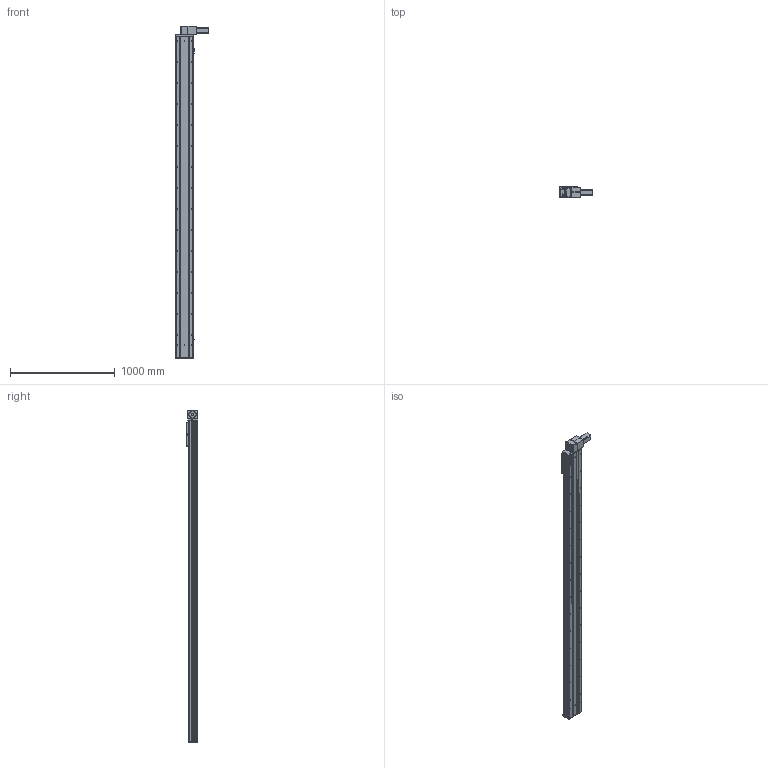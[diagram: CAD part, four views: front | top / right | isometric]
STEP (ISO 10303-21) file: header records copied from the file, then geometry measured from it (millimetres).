
FILE_DESCRIPTION (( 'STEP AP203' ), '1' );
FILE_NAME ('Y170CB-D105-S2750-BD-P400W.STEP', '2020-02-20T09:17:58', ( '微软用户' ), ( '微软中国' ), 'SwSTEP 2.0', 'SolidWorks 2017', '' );
FILE_SCHEMA (( 'CONFIG_CONTROL_DESIGN' ));
Length unit declared in the file: millimetre
Products named in the file (16): Y170CB-陔俋离換覜結え---; --70CB --喘謫眊楊擘啣-; Y1埴倛裔; 70CB-耜裔啣-; 70C--詩湍揤踡え-; 70CB--耜裔; 70C-雄赽釱-奻-; 70B喘謫眊----; 0C--雄赽釱俋欶-170; B-源倛裔啣; 0B薊粣ん眊-400W--; Y170CB-D105-S2750-BD-P400W; 70CB-詩湍--; san松下电机400不带刹车----; Y100-135俋离換覜ん--; 70CB-掛极-
Assembly tree (19 placements, depth 2):
  Y170CB-D105-S2750-BD-P400W
    B-源倛裔啣
    san松下电机400不带刹车----
    70CB-掛极-
    --70CB --喘謫眊楊擘啣-
    70CB-耜裔啣-  x2
    70C--詩湍揤踡え-  x2
    70CB--耜裔
    70C-雄赽釱-奻-
    0C--雄赽釱俋欶-170
    70CB-詩湍--
    Y100-135俋离換覜ん--  x3
    Y170CB-陔俋离換覜結え---
    Y1埴倛裔
    70B喘謫眊----
    0B薊粣ん眊-400W--
Bounding box: 313.5 x 107 x 3166 mm (x, y, z)
Volume: 13716899.5 mm3; surface area: 4824797 mm2
Topology: 19 solids, 19 shells, 992 faces, 2642 edges, 1752 vertices
Faces by surface type: cylinder 546, plane 422, cone 24
Entity records: 31347 total; most frequent: CARTESIAN_POINT 5866, DIRECTION 5103, ORIENTED_EDGE 4766, EDGE_CURVE 2383, AXIS2_PLACEMENT_3D 1901, VERTEX_POINT 1582, VECTOR 1301, LINE 1301
